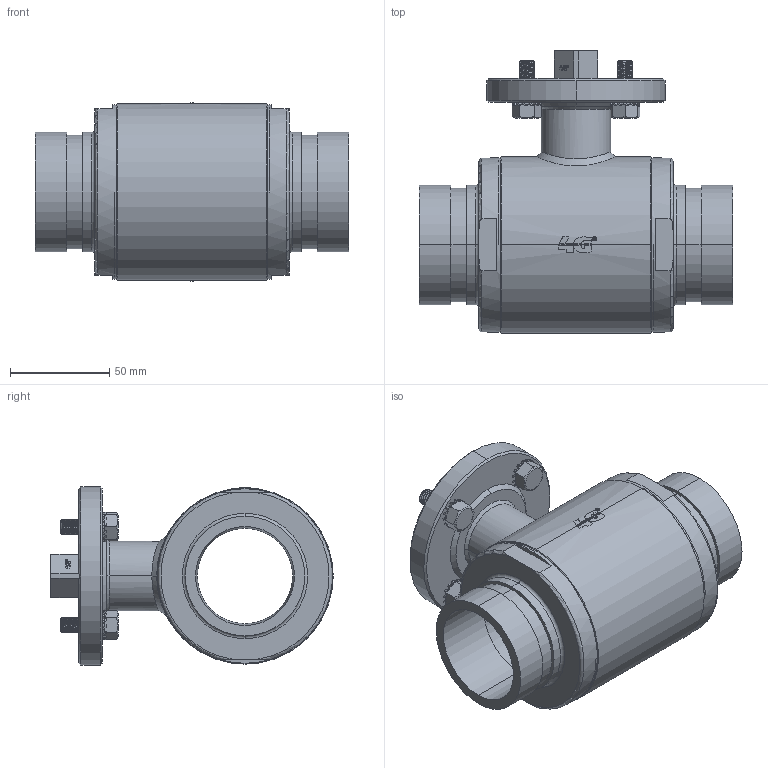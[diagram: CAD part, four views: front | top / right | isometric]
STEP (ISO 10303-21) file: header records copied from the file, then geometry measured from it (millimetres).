
FILE_DESCRIPTION((''),'2;1');
FILE_NAME('2130606381F_SW0001','2025-08-01T15:06:03',('tecnico2'),('CDM Tecnoconsulting'),'CREO PARAMETRIC BY PTC INC, 2024063','CREO PARAMETRIC BY PTC INC, 2024063','');
FILE_SCHEMA(('AUTOMOTIVE_DESIGN { 1 0 10303 214 1 1 1 1 }'));
Products named in the file (1): 2130606381F_SW0001
Bounding box: 158 x 142.5 x 90 mm (x, y, z)
Volume: 517211.6 mm3; surface area: 141855.3 mm2
Topology: 1 solids, 1 shells, 1352 faces, 3737 edges, 2437 vertices
Faces by surface type: plane 560, cylinder 396, cone 169, extrusion 111, bspline 86, torus 26, sphere 4
Entity records: 91807 total; most frequent: CARTESIAN_POINT 46212, ORIENTED_EDGE 7458, DIRECTION 5581, PRESENTATION_STYLE_ASSIGNMENT 4053, STYLED_ITEM 3786, CURVE_STYLE 3785, EDGE_CURVE 3729, VERTEX_POINT 2437
